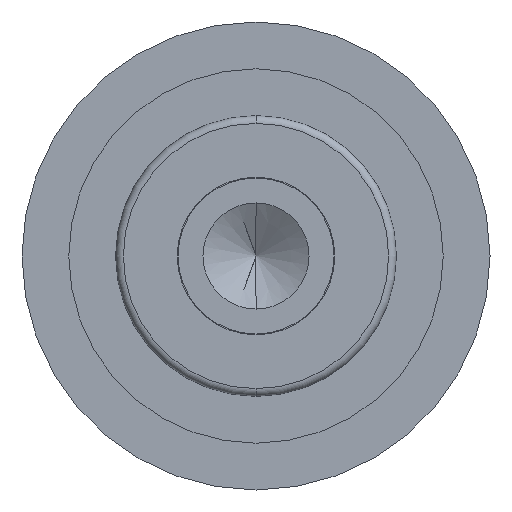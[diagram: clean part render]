
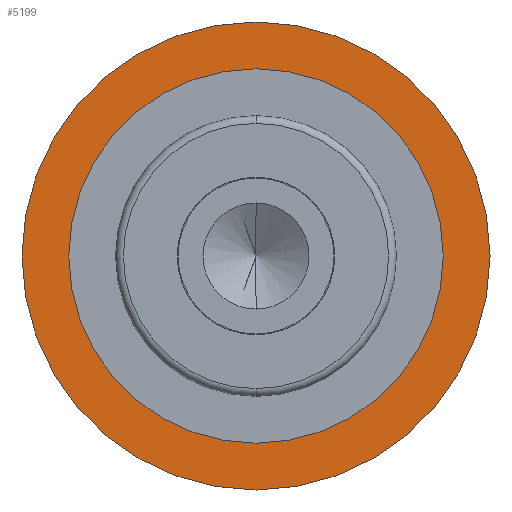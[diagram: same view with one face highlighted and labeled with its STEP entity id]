
A CAD part, front view. The second image highlights one B-rep face of the part: STEP entity #5199.
In plain terms, the highlighted planar face has unit normal (0, -1, 0).
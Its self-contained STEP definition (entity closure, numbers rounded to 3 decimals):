
#23 = AXIS2_PLACEMENT_3D ( 'NONE', #1003, #5686, #1686 ) ;
#556 = EDGE_CURVE ( 'NONE', #3829, #4473, #6450, .T. ) ;
#844 = DIRECTION ( 'NONE',  ( 0., 0., -1. ) ) ;
#1003 = CARTESIAN_POINT ( 'NONE',  ( 0., 10.5, 0. ) ) ;
#1112 = FACE_OUTER_BOUND ( 'NONE', #7910, .T. ) ;
#1116 = VERTEX_POINT ( 'NONE', #5101 ) ;
#1267 = DIRECTION ( 'NONE',  ( 0., -1., 0. ) ) ;
#1686 = DIRECTION ( 'NONE',  ( 0., 0., -1. ) ) ;
#2064 = CIRCLE ( 'NONE', #6164, 12. ) ;
#2178 = ORIENTED_EDGE ( 'NONE', *, *, #6993, .T. ) ;
#2603 = AXIS2_PLACEMENT_3D ( 'NONE', #3513, #4884, #844 ) ;
#2701 = CIRCLE ( 'NONE', #2784, 15. ) ;
#2741 = CIRCLE ( 'NONE', #8163, 15. ) ;
#2784 = AXIS2_PLACEMENT_3D ( 'NONE', #5295, #1267, #5936 ) ;
#2884 = FACE_BOUND ( 'NONE', #3536, .T. ) ;
#3036 = CARTESIAN_POINT ( 'NONE',  ( 0., 10.5, 0. ) ) ;
#3155 = CARTESIAN_POINT ( 'NONE',  ( 0., 10.5, -12. ) ) ;
#3235 = CARTESIAN_POINT ( 'NONE',  ( 0., 10.5, 0. ) ) ;
#3309 = EDGE_CURVE ( 'NONE', #1116, #5264, #2741, .T. ) ;
#3513 = CARTESIAN_POINT ( 'NONE',  ( 15., 10.5, 0. ) ) ;
#3536 = EDGE_LOOP ( 'NONE', ( #3963, #7425 ) ) ;
#3724 = DIRECTION ( 'NONE',  ( 0., 0., -1. ) ) ;
#3829 = VERTEX_POINT ( 'NONE', #7865 ) ;
#3922 = DIRECTION ( 'NONE',  ( 0., 0., -1. ) ) ;
#3963 = ORIENTED_EDGE ( 'NONE', *, *, #5296, .F. ) ;
#4473 = VERTEX_POINT ( 'NONE', #3155 ) ;
#4884 = DIRECTION ( 'NONE',  ( 0., -1., 0. ) ) ;
#5101 = CARTESIAN_POINT ( 'NONE',  ( 0., 10.5, -15. ) ) ;
#5199 = ADVANCED_FACE ( 'NONE', ( #1112, #2884 ), #6161, .T. ) ;
#5264 = VERTEX_POINT ( 'NONE', #7580 ) ;
#5295 = CARTESIAN_POINT ( 'NONE',  ( 0., 10.5, 0. ) ) ;
#5296 = EDGE_CURVE ( 'NONE', #4473, #3829, #2064, .T. ) ;
#5686 = DIRECTION ( 'NONE',  ( 0., -1., 0. ) ) ;
#5936 = DIRECTION ( 'NONE',  ( 0., 0., -1. ) ) ;
#6161 = PLANE ( 'NONE',  #2603 ) ;
#6164 = AXIS2_PLACEMENT_3D ( 'NONE', #3036, #7629, #3724 ) ;
#6450 = CIRCLE ( 'NONE', #23, 12. ) ;
#6993 = EDGE_CURVE ( 'NONE', #5264, #1116, #2701, .T. ) ;
#7230 = ORIENTED_EDGE ( 'NONE', *, *, #3309, .T. ) ;
#7425 = ORIENTED_EDGE ( 'NONE', *, *, #556, .F. ) ;
#7580 = CARTESIAN_POINT ( 'NONE',  ( 0., 10.5, 15. ) ) ;
#7629 = DIRECTION ( 'NONE',  ( 0., -1., 0. ) ) ;
#7818 = DIRECTION ( 'NONE',  ( 0., -1., 0. ) ) ;
#7865 = CARTESIAN_POINT ( 'NONE',  ( 0., 10.5, 12. ) ) ;
#7910 = EDGE_LOOP ( 'NONE', ( #7230, #2178 ) ) ;
#8163 = AXIS2_PLACEMENT_3D ( 'NONE', #3235, #7818, #3922 ) ;
